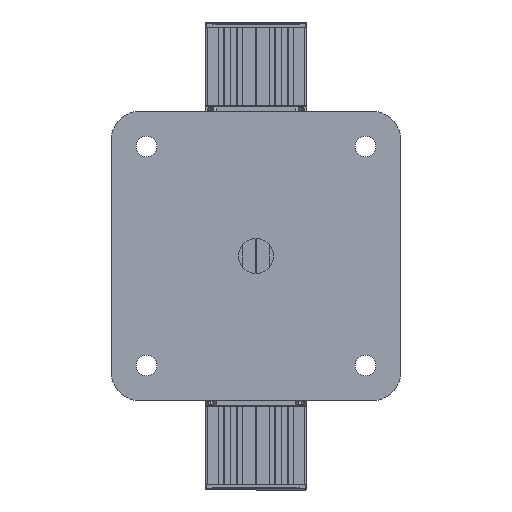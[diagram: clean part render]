
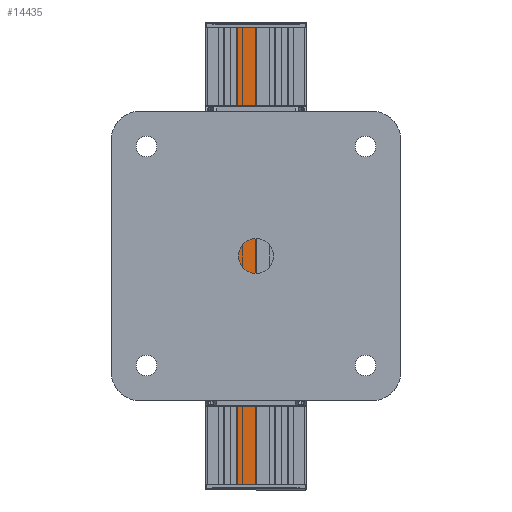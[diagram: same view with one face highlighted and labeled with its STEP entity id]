
A CAD part, front view. The second image highlights one B-rep face of the part: STEP entity #14435.
In plain terms, the highlighted planar face has unit normal (0, -1, 0).
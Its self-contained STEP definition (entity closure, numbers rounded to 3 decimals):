
#2338 = CARTESIAN_POINT ( 'NONE',  ( -0.3, 800., 197. ) ) ;
#14435 = ADVANCED_FACE ( 'NONE', ( #30518 ), #30582, .F. ) ;
#14992 = EDGE_CURVE ( 'NONE', #22896, #22753, #33880, .T. ) ;
#15530 = EDGE_CURVE ( 'NONE', #22500, #22896, #37031, .T. ) ;
#15540 = ORIENTED_EDGE ( 'NONE', *, *, #14992, .F. ) ;
#15838 = ORIENTED_EDGE ( 'NONE', *, *, #15530, .F. ) ;
#15860 = ORIENTED_EDGE ( 'NONE', *, *, #16123, .T. ) ;
#15882 = ORIENTED_EDGE ( 'NONE', *, *, #15972, .T. ) ;
#15972 = EDGE_CURVE ( 'NONE', #22499, #22753, #38072, .T. ) ;
#16123 = EDGE_CURVE ( 'NONE', #22500, #22499, #38898, .T. ) ;
#21714 = EDGE_LOOP ( 'NONE', ( #15882, #15540, #15838, #15860 ) ) ;
#22499 = VERTEX_POINT ( 'NONE', #32686 ) ;
#22500 = VERTEX_POINT ( 'NONE', #32680 ) ;
#22753 = VERTEX_POINT ( 'NONE', #35628 ) ;
#22896 = VERTEX_POINT ( 'NONE', #2338 ) ;
#30518 = FACE_OUTER_BOUND ( 'NONE', #21714, .T. ) ;
#30578 = DIRECTION ( 'NONE',  ( -1., 0., 0. ) ) ;
#30579 = DIRECTION ( 'NONE',  ( 0., 1., 0. ) ) ;
#30580 = CARTESIAN_POINT ( 'NONE',  ( -16., 800., 197. ) ) ;
#30581 = AXIS2_PLACEMENT_3D ( 'NONE', #30580, #30579, #30578 ) ;
#30582 = PLANE ( 'NONE',  #30581 ) ;
#32680 = CARTESIAN_POINT ( 'NONE',  ( -16., 800., 197. ) ) ;
#32686 = CARTESIAN_POINT ( 'NONE',  ( -16., 800., -197. ) ) ;
#33877 = DIRECTION ( 'NONE',  ( 0., 0., -1. ) ) ;
#33878 = VECTOR ( 'NONE', #33877, 1000. ) ;
#33879 = CARTESIAN_POINT ( 'NONE',  ( -0.3, 800., 197. ) ) ;
#33880 = LINE ( 'NONE', #33879, #33878 ) ;
#35628 = CARTESIAN_POINT ( 'NONE',  ( -0.3, 800., -197. ) ) ;
#37028 = DIRECTION ( 'NONE',  ( 1., 0., 0. ) ) ;
#37029 = VECTOR ( 'NONE', #37028, 1000. ) ;
#37030 = CARTESIAN_POINT ( 'NONE',  ( -16., 800., 197. ) ) ;
#37031 = LINE ( 'NONE', #37030, #37029 ) ;
#38069 = DIRECTION ( 'NONE',  ( 1., 0., 0. ) ) ;
#38070 = VECTOR ( 'NONE', #38069, 1000. ) ;
#38071 = CARTESIAN_POINT ( 'NONE',  ( -16., 800., -197. ) ) ;
#38072 = LINE ( 'NONE', #38071, #38070 ) ;
#38895 = DIRECTION ( 'NONE',  ( 0., 0., -1. ) ) ;
#38896 = VECTOR ( 'NONE', #38895, 1000. ) ;
#38897 = CARTESIAN_POINT ( 'NONE',  ( -16., 800., 197. ) ) ;
#38898 = LINE ( 'NONE', #38897, #38896 ) ;
